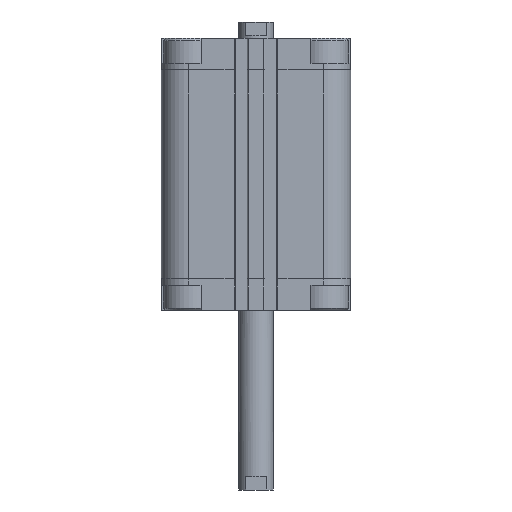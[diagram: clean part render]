
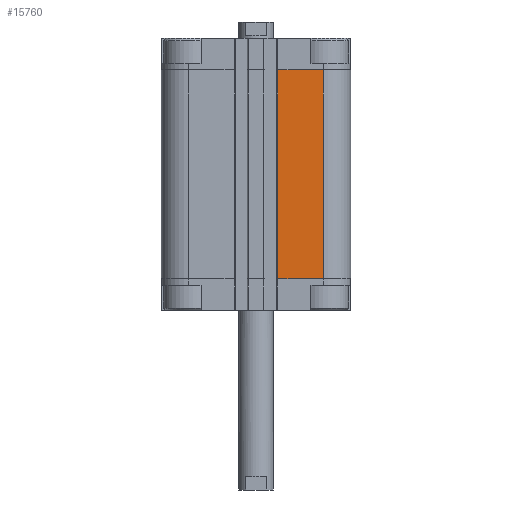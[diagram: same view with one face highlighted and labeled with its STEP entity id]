
A CAD part, front view. The second image highlights one B-rep face of the part: STEP entity #15760.
In plain terms, the highlighted planar face has unit normal (0, -1, 0).
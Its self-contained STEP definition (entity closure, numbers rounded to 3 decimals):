
#1050 = VECTOR ( 'NONE', #3810, 1000. ) ;
#1121 = CARTESIAN_POINT ( 'NONE',  ( 31., -43.5, -14.5 ) ) ;
#2099 = ORIENTED_EDGE ( 'NONE', *, *, #9452, .T. ) ;
#3103 = DIRECTION ( 'NONE',  ( -1., 0., 0. ) ) ;
#3810 = DIRECTION ( 'NONE',  ( 1., 0., 0. ) ) ;
#3960 = EDGE_LOOP ( 'NONE', ( #17007, #17164, #2099, #11352 ) ) ;
#4264 = CARTESIAN_POINT ( 'NONE',  ( 10.05, -43.5, -110.5 ) ) ;
#5281 = AXIS2_PLACEMENT_3D ( 'NONE', #9351, #16672, #3103 ) ;
#6253 = VERTEX_POINT ( 'NONE', #4264 ) ;
#6782 = CARTESIAN_POINT ( 'NONE',  ( 10.05, -43.5, -110.5 ) ) ;
#6927 = EDGE_CURVE ( 'NONE', #9865, #7467, #9967, .T. ) ;
#7467 = VERTEX_POINT ( 'NONE', #1121 ) ;
#7604 = CARTESIAN_POINT ( 'NONE',  ( 10.05, -43.5, -14.5 ) ) ;
#9008 = EDGE_CURVE ( 'NONE', #6253, #9865, #9674, .T. ) ;
#9351 = CARTESIAN_POINT ( 'NONE',  ( 10.05, -43.5, -110.5 ) ) ;
#9452 = EDGE_CURVE ( 'NONE', #6253, #17630, #11705, .T. ) ;
#9573 = VECTOR ( 'NONE', #14524, 1000. ) ;
#9635 = LINE ( 'NONE', #14073, #12587 ) ;
#9665 = CARTESIAN_POINT ( 'NONE',  ( 10.05, -43.5, -14.5 ) ) ;
#9674 = LINE ( 'NONE', #11563, #9573 ) ;
#9865 = VERTEX_POINT ( 'NONE', #7604 ) ;
#9967 = LINE ( 'NONE', #9665, #15223 ) ;
#10636 = FACE_OUTER_BOUND ( 'NONE', #3960, .T. ) ;
#11352 = ORIENTED_EDGE ( 'NONE', *, *, #11782, .T. ) ;
#11563 = CARTESIAN_POINT ( 'NONE',  ( 10.05, -43.5, -110.5 ) ) ;
#11705 = LINE ( 'NONE', #6782, #1050 ) ;
#11782 = EDGE_CURVE ( 'NONE', #17630, #7467, #9635, .T. ) ;
#12587 = VECTOR ( 'NONE', #12797, 1000. ) ;
#12797 = DIRECTION ( 'NONE',  ( 0., 0., 1. ) ) ;
#14073 = CARTESIAN_POINT ( 'NONE',  ( 31., -43.5, -110.5 ) ) ;
#14524 = DIRECTION ( 'NONE',  ( 0., 0., 1. ) ) ;
#15223 = VECTOR ( 'NONE', #17502, 1000. ) ;
#15760 = ADVANCED_FACE ( 'NONE', ( #10636 ), #16965, .T. ) ;
#16672 = DIRECTION ( 'NONE',  ( 0., -1., 0. ) ) ;
#16965 = PLANE ( 'NONE',  #5281 ) ;
#17007 = ORIENTED_EDGE ( 'NONE', *, *, #6927, .F. ) ;
#17164 = ORIENTED_EDGE ( 'NONE', *, *, #9008, .F. ) ;
#17502 = DIRECTION ( 'NONE',  ( 1., 0., 0. ) ) ;
#17630 = VERTEX_POINT ( 'NONE', #17644 ) ;
#17644 = CARTESIAN_POINT ( 'NONE',  ( 31., -43.5, -110.5 ) ) ;
